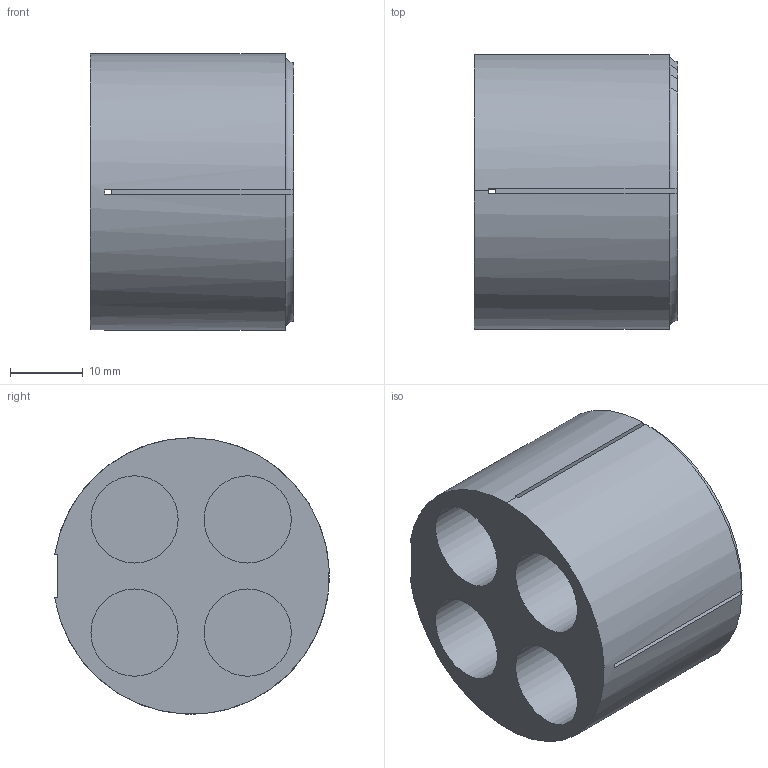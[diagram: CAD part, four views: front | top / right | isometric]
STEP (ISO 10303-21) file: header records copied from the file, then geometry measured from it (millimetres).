
FILE_DESCRIPTION(('Open CASCADE Model'),'2;1');
FILE_NAME('Open CASCADE Shape Model','2026-11-13T06:32:21',('Author'),( 'Open CASCADE'),'Open CASCADE STEP processor 7.9','Open CASCADE 7.9' ,'Unknown');
FILE_SCHEMA(('AUTOMOTIVE_DESIGN { 1 0 10303 214 1 1 1 1 }'));
Length unit declared in the file: millimetre
Products named in the file (3): T1_coupon_sabot; 00_SABOT; 01_COUPON
Assembly tree (2 placements, depth 2):
  T1_coupon_sabot
    00_SABOT
    01_COUPON
Bounding box: 28 x 37.76 x 38 mm (x, y, z)
Volume: 19778.4 mm3; surface area: 14164.2 mm2
Topology: 2 solids, 2 shells, 53 faces, 127 edges, 82 vertices
Faces by surface type: plane 43, cylinder 6, torus 4
Full cylindrical faces by diameter (mm): 12 x4
Entity records: 4806 total; most frequent: CARTESIAN_POINT 2365, DIRECTION 379, ORIENTED_EDGE 254, PCURVE 254, DEFINITIONAL_REPRESENTATION 254, LINE 205, VECTOR 205, B_SPLINE_CURVE_WITH_KNOTS 136
